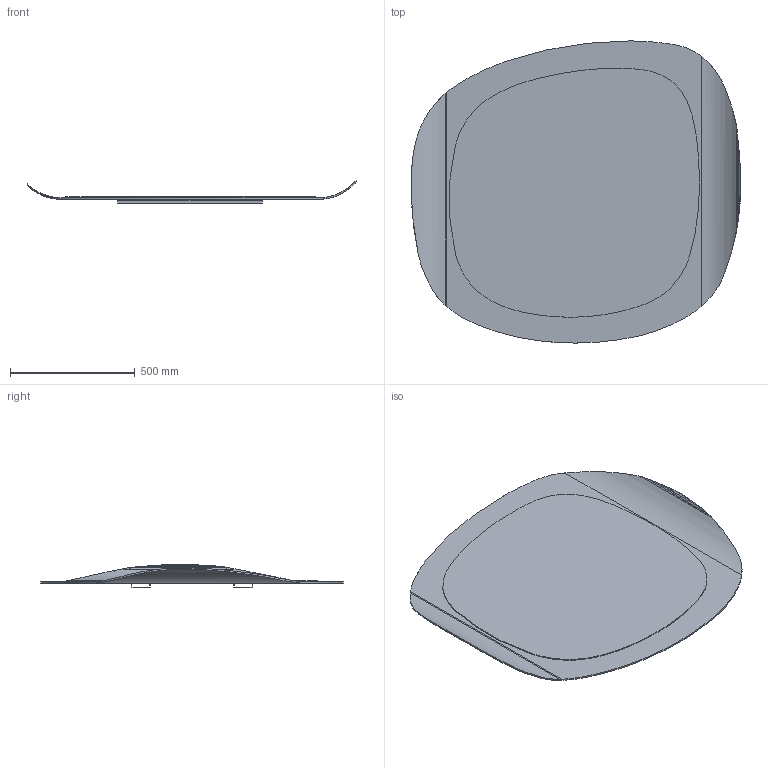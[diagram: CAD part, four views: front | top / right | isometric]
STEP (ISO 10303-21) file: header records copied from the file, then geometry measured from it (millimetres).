
FILE_DESCRIPTION (( 'STEP AP203' ), '1' );
FILE_NAME ('GAL02_Gallery_132x122.STEP', '2024-08-02T09:03:51', ( '' ), ( '' ), 'SwSTEP 2.0', 'SolidWorks 2022', '' );
FILE_SCHEMA (( 'CONFIG_CONTROL_DESIGN' ));
Length unit declared in the file: millimetre
Products named in the file (3): GALXX-00-LAMIERA ANCORAGGIO PIEGATA; GAL02_A-00-SPECCHIO GALLERY 132x122; GAL02_Gallery_132x122
Assembly tree (2 placements, depth 2):
  GAL02_Gallery_132x122
    GALXX-00-LAMIERA ANCORAGGIO PIEGATA
    GAL02_A-00-SPECCHIO GALLERY 132x122
Bounding box: 1319.63 x 1210.77 x 94.07 mm (x, y, z)
Volume: 11978346.8 mm3; surface area: 5209513.4 mm2
Topology: 3 solids, 3 shells, 219 faces, 565 edges, 344 vertices
Faces by surface type: cylinder 111, plane 108
Entity records: 7051 total; most frequent: CARTESIAN_POINT 1415, ORIENTED_EDGE 1130, DIRECTION 1125, EDGE_CURVE 565, AXIS2_PLACEMENT_3D 396, VERTEX_POINT 344, LINE 333, VECTOR 333
